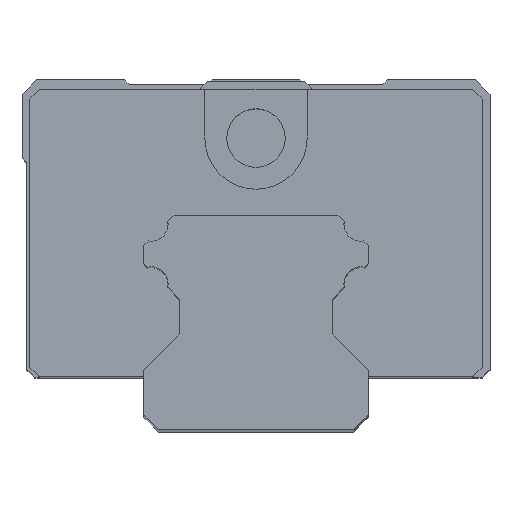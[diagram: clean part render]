
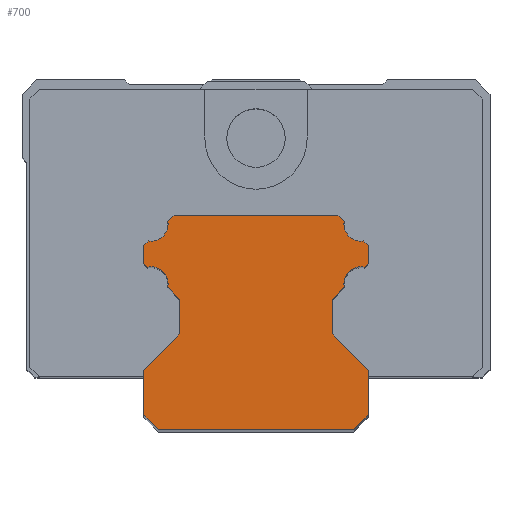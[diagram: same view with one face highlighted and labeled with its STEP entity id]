
A CAD part, top view. The second image highlights one B-rep face of the part: STEP entity #700.
In plain terms, the highlighted planar face has unit normal (0, 0, 1).
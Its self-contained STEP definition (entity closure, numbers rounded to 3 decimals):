
#1=CARTESIAN_POINT('',(10.767,-7.063,71.));
#2=DIRECTION('',(0.,0.,1.));
#3=DIRECTION('',(0.178,0.984,0.));
#4=AXIS2_PLACEMENT_3D('',#1,#2,#3);
#6=CARTESIAN_POINT('',(10.767,-7.063,71.));
#7=DIRECTION('',(0.,0.,1.));
#8=DIRECTION('',(-1.,0.,0.));
#9=AXIS2_PLACEMENT_3D('',#6,#7,#8);
#11=DIRECTION('',(-0.707,-0.707,0.));
#12=VECTOR('',#11,1.761);
#13=CARTESIAN_POINT('',(9.045,-7.375,71.));
#14=LINE('',#13,#12);
#15=DIRECTION('',(0.707,-0.707,0.));
#16=VECTOR('',#15,5.233);
#17=CARTESIAN_POINT('',(7.8,-12.201,71.));
#18=LINE('',#17,#16);
#19=DIRECTION('',(-0.707,-0.707,0.));
#20=VECTOR('',#19,2.121);
#21=CARTESIAN_POINT('',(11.5,-20.5,71.));
#22=LINE('',#21,#20);
#23=DIRECTION('',(-0.707,0.707,0.));
#24=VECTOR('',#23,2.121);
#25=CARTESIAN_POINT('',(-10.,-22.,71.));
#26=LINE('',#25,#24);
#27=DIRECTION('',(0.707,0.707,0.));
#28=VECTOR('',#27,5.233);
#29=CARTESIAN_POINT('',(-11.5,-15.901,71.));
#30=LINE('',#29,#28);
#31=DIRECTION('',(-0.707,0.707,0.));
#32=VECTOR('',#31,1.761);
#33=CARTESIAN_POINT('',(-7.8,-8.62,71.));
#34=LINE('',#33,#32);
#35=CARTESIAN_POINT('',(-10.767,-7.063,71.));
#36=DIRECTION('',(0.,0.,1.));
#37=DIRECTION('',(0.984,-0.178,0.));
#38=AXIS2_PLACEMENT_3D('',#35,#36,#37);
#40=CARTESIAN_POINT('',(-10.767,-7.063,71.));
#41=DIRECTION('',(0.,0.,1.));
#42=DIRECTION('',(1.,0.,0.));
#43=AXIS2_PLACEMENT_3D('',#40,#41,#42);
#45=DIRECTION('',(-0.707,0.707,0.));
#46=VECTOR('',#45,0.595);
#47=CARTESIAN_POINT('',(-11.079,-5.341,71.));
#48=LINE('',#47,#46);
#49=DIRECTION('',(0.707,0.707,0.));
#50=VECTOR('',#49,0.614);
#51=CARTESIAN_POINT('',(-11.5,-3.091,71.));
#52=LINE('',#51,#50);
#53=CARTESIAN_POINT('',(-10.772,-0.932,71.));
#54=DIRECTION('',(0.,0.,1.));
#55=DIRECTION('',(-0.168,-0.986,0.));
#56=AXIS2_PLACEMENT_3D('',#53,#54,#55);
#58=CARTESIAN_POINT('',(-10.772,-0.932,71.));
#59=DIRECTION('',(0.,0.,1.));
#60=DIRECTION('',(1.,0.,0.));
#61=AXIS2_PLACEMENT_3D('',#58,#59,#60);
#63=DIRECTION('',(0.707,0.707,0.));
#64=VECTOR('',#63,0.903);
#65=CARTESIAN_POINT('',(-9.047,-0.638,71.));
#66=LINE('',#65,#64);
#67=DIRECTION('',(0.707,-0.707,0.));
#68=VECTOR('',#67,0.903);
#69=CARTESIAN_POINT('',(8.409,0.,71.));
#70=LINE('',#69,#68);
#71=CARTESIAN_POINT('',(10.772,-0.932,71.));
#72=DIRECTION('',(0.,0.,1.));
#73=DIRECTION('',(-0.986,0.168,0.));
#74=AXIS2_PLACEMENT_3D('',#71,#72,#73);
#76=CARTESIAN_POINT('',(10.772,-0.932,71.));
#77=DIRECTION('',(0.,0.,1.));
#78=DIRECTION('',(-1.,0.,0.));
#79=AXIS2_PLACEMENT_3D('',#76,#77,#78);
#81=DIRECTION('',(0.707,-0.707,0.));
#82=VECTOR('',#81,0.614);
#83=CARTESIAN_POINT('',(11.066,-2.657,71.));
#84=LINE('',#83,#82);
#85=DIRECTION('',(-0.707,-0.707,0.));
#86=VECTOR('',#85,0.595);
#87=CARTESIAN_POINT('',(11.5,-4.92,71.));
#88=LINE('',#87,#86);
#114=DIRECTION('',(0.,1.,0.));
#115=VECTOR('',#114,1.829);
#116=CARTESIAN_POINT('',(11.5,-4.92,71.));
#117=LINE('',#116,#115);
#151=DIRECTION('',(-1.,0.,0.));
#152=VECTOR('',#151,16.817);
#153=CARTESIAN_POINT('',(8.409,0.,71.));
#154=LINE('',#153,#152);
#218=DIRECTION('',(0.,-1.,0.));
#219=VECTOR('',#218,1.829);
#220=CARTESIAN_POINT('',(-11.5,-3.091,71.));
#221=LINE('',#220,#219);
#255=DIRECTION('',(0.,-1.,0.));
#256=VECTOR('',#255,3.581);
#257=CARTESIAN_POINT('',(-7.8,-8.62,71.));
#258=LINE('',#257,#256);
#275=DIRECTION('',(0.,-1.,0.));
#276=VECTOR('',#275,4.599);
#277=CARTESIAN_POINT('',(-11.5,-15.901,71.));
#278=LINE('',#277,#276);
#325=DIRECTION('',(1.,0.,0.));
#326=VECTOR('',#325,20.);
#327=CARTESIAN_POINT('',(-10.,-22.,71.));
#328=LINE('',#327,#326);
#453=DIRECTION('',(0.,1.,0.));
#454=VECTOR('',#453,4.599);
#455=CARTESIAN_POINT('',(11.5,-20.5,71.));
#456=LINE('',#455,#454);
#473=DIRECTION('',(0.,1.,0.));
#474=VECTOR('',#473,3.581);
#475=CARTESIAN_POINT('',(7.8,-12.201,71.));
#476=LINE('',#475,#474);
#485=CARTESIAN_POINT('',(11.079,-5.341,71.));
#486=CARTESIAN_POINT('',(9.017,-7.063,71.));
#487=VERTEX_POINT('',#485);
#488=VERTEX_POINT('',#486);
#489=CARTESIAN_POINT('',(9.045,-7.375,71.));
#490=VERTEX_POINT('',#489);
#491=CARTESIAN_POINT('',(7.8,-8.62,71.));
#492=VERTEX_POINT('',#491);
#493=CARTESIAN_POINT('',(7.8,-12.201,71.));
#494=VERTEX_POINT('',#493);
#495=CARTESIAN_POINT('',(11.5,-15.901,71.));
#496=VERTEX_POINT('',#495);
#497=CARTESIAN_POINT('',(11.5,-20.5,71.));
#498=VERTEX_POINT('',#497);
#499=CARTESIAN_POINT('',(10.,-22.,71.));
#500=VERTEX_POINT('',#499);
#501=CARTESIAN_POINT('',(-10.,-22.,71.));
#502=VERTEX_POINT('',#501);
#503=CARTESIAN_POINT('',(-11.5,-20.5,71.));
#504=VERTEX_POINT('',#503);
#505=CARTESIAN_POINT('',(-11.5,-15.901,71.));
#506=VERTEX_POINT('',#505);
#507=CARTESIAN_POINT('',(-7.8,-12.201,71.));
#508=VERTEX_POINT('',#507);
#509=CARTESIAN_POINT('',(-7.8,-8.62,71.));
#510=VERTEX_POINT('',#509);
#511=CARTESIAN_POINT('',(-9.045,-7.375,71.));
#512=VERTEX_POINT('',#511);
#513=CARTESIAN_POINT('',(-9.017,-7.063,71.));
#514=VERTEX_POINT('',#513);
#515=CARTESIAN_POINT('',(-11.079,-5.341,71.));
#516=VERTEX_POINT('',#515);
#517=CARTESIAN_POINT('',(-11.5,-4.92,71.));
#518=VERTEX_POINT('',#517);
#519=CARTESIAN_POINT('',(-11.5,-3.091,71.));
#520=VERTEX_POINT('',#519);
#521=CARTESIAN_POINT('',(-11.066,-2.657,71.));
#522=VERTEX_POINT('',#521);
#523=CARTESIAN_POINT('',(-9.022,-0.932,71.));
#524=VERTEX_POINT('',#523);
#525=CARTESIAN_POINT('',(-9.047,-0.638,71.));
#526=VERTEX_POINT('',#525);
#527=CARTESIAN_POINT('',(-8.409,0.,71.));
#528=VERTEX_POINT('',#527);
#529=CARTESIAN_POINT('',(8.409,0.,71.));
#530=VERTEX_POINT('',#529);
#531=CARTESIAN_POINT('',(9.047,-0.638,71.));
#532=VERTEX_POINT('',#531);
#533=CARTESIAN_POINT('',(9.022,-0.932,71.));
#534=VERTEX_POINT('',#533);
#535=CARTESIAN_POINT('',(11.066,-2.657,71.));
#536=VERTEX_POINT('',#535);
#537=CARTESIAN_POINT('',(11.5,-3.091,71.));
#538=VERTEX_POINT('',#537);
#539=CARTESIAN_POINT('',(11.5,-4.92,71.));
#540=VERTEX_POINT('',#539);
#637=CARTESIAN_POINT('',(5.,17.5,71.));
#638=DIRECTION('',(0.,0.,1.));
#639=DIRECTION('',(1.,0.,0.));
#640=AXIS2_PLACEMENT_3D('',#637,#638,#639);
#641=PLANE('',#640);
#643=ORIENTED_EDGE('',*,*,#642,.T.);
#645=ORIENTED_EDGE('',*,*,#644,.T.);
#647=ORIENTED_EDGE('',*,*,#646,.T.);
#649=ORIENTED_EDGE('',*,*,#648,.F.);
#651=ORIENTED_EDGE('',*,*,#650,.T.);
#653=ORIENTED_EDGE('',*,*,#652,.F.);
#655=ORIENTED_EDGE('',*,*,#654,.T.);
#657=ORIENTED_EDGE('',*,*,#656,.F.);
#659=ORIENTED_EDGE('',*,*,#658,.T.);
#661=ORIENTED_EDGE('',*,*,#660,.F.);
#663=ORIENTED_EDGE('',*,*,#662,.T.);
#665=ORIENTED_EDGE('',*,*,#664,.F.);
#667=ORIENTED_EDGE('',*,*,#666,.T.);
#669=ORIENTED_EDGE('',*,*,#668,.T.);
#671=ORIENTED_EDGE('',*,*,#670,.T.);
#673=ORIENTED_EDGE('',*,*,#672,.T.);
#675=ORIENTED_EDGE('',*,*,#674,.F.);
#677=ORIENTED_EDGE('',*,*,#676,.T.);
#679=ORIENTED_EDGE('',*,*,#678,.T.);
#681=ORIENTED_EDGE('',*,*,#680,.T.);
#683=ORIENTED_EDGE('',*,*,#682,.T.);
#685=ORIENTED_EDGE('',*,*,#684,.F.);
#687=ORIENTED_EDGE('',*,*,#686,.T.);
#689=ORIENTED_EDGE('',*,*,#688,.T.);
#691=ORIENTED_EDGE('',*,*,#690,.T.);
#693=ORIENTED_EDGE('',*,*,#692,.T.);
#695=ORIENTED_EDGE('',*,*,#694,.F.);
#697=ORIENTED_EDGE('',*,*,#696,.T.);
#698=EDGE_LOOP('',(#643,#645,#647,#649,#651,#653,#655,#657,#659,#661,#663,#665,
#667,#669,#671,#673,#675,#677,#679,#681,#683,#685,#687,#689,#691,#693,#695,
#697));
#699=FACE_OUTER_BOUND('',#698,.F.);
#700=ADVANCED_FACE('',(#699),#641,.T.);
#5=CIRCLE('',#4,1.75);
#10=CIRCLE('',#9,1.75);
#39=CIRCLE('',#38,1.75);
#44=CIRCLE('',#43,1.75);
#57=CIRCLE('',#56,1.75);
#62=CIRCLE('',#61,1.75);
#75=CIRCLE('',#74,1.75);
#80=CIRCLE('',#79,1.75);
#642=EDGE_CURVE('',#487,#488,#5,.T.);
#644=EDGE_CURVE('',#488,#490,#10,.T.);
#646=EDGE_CURVE('',#490,#492,#14,.T.);
#648=EDGE_CURVE('',#494,#492,#476,.T.);
#650=EDGE_CURVE('',#494,#496,#18,.T.);
#652=EDGE_CURVE('',#498,#496,#456,.T.);
#654=EDGE_CURVE('',#498,#500,#22,.T.);
#656=EDGE_CURVE('',#502,#500,#328,.T.);
#658=EDGE_CURVE('',#502,#504,#26,.T.);
#660=EDGE_CURVE('',#506,#504,#278,.T.);
#662=EDGE_CURVE('',#506,#508,#30,.T.);
#664=EDGE_CURVE('',#510,#508,#258,.T.);
#666=EDGE_CURVE('',#510,#512,#34,.T.);
#668=EDGE_CURVE('',#512,#514,#39,.T.);
#670=EDGE_CURVE('',#514,#516,#44,.T.);
#672=EDGE_CURVE('',#516,#518,#48,.T.);
#674=EDGE_CURVE('',#520,#518,#221,.T.);
#676=EDGE_CURVE('',#520,#522,#52,.T.);
#678=EDGE_CURVE('',#522,#524,#57,.T.);
#680=EDGE_CURVE('',#524,#526,#62,.T.);
#682=EDGE_CURVE('',#526,#528,#66,.T.);
#684=EDGE_CURVE('',#530,#528,#154,.T.);
#686=EDGE_CURVE('',#530,#532,#70,.T.);
#688=EDGE_CURVE('',#532,#534,#75,.T.);
#690=EDGE_CURVE('',#534,#536,#80,.T.);
#692=EDGE_CURVE('',#536,#538,#84,.T.);
#694=EDGE_CURVE('',#540,#538,#117,.T.);
#696=EDGE_CURVE('',#540,#487,#88,.T.);
